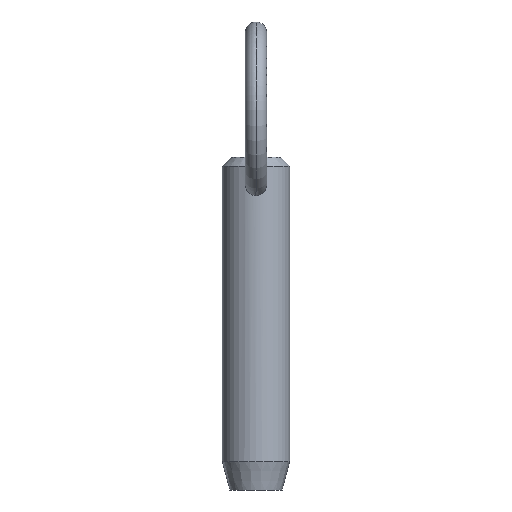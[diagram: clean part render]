
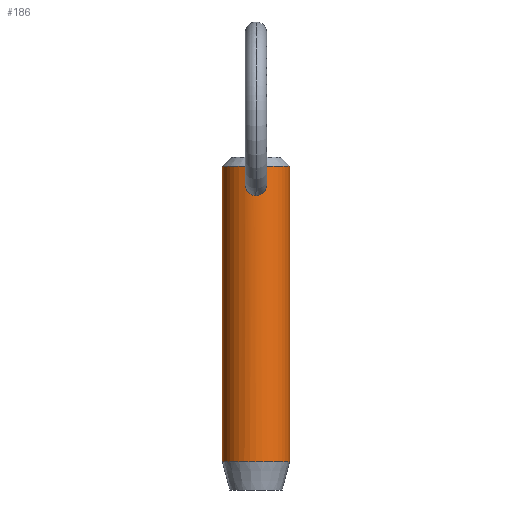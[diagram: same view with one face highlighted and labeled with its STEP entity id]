
A CAD part, front view. The second image highlights one B-rep face of the part: STEP entity #186.
In plain terms, the highlighted cylindrical face has radius 4.76 mm (diameter 9.52 mm), a partial arc.
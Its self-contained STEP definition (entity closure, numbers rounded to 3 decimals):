
#1 = CARTESIAN_POINT ( 'NONE',  ( 0., 0., -8.7 ) ) ;
#4 = VERTEX_POINT ( 'NONE', #56 ) ;
#10 = VECTOR ( 'NONE', #310, 1000. ) ;
#21 = CARTESIAN_POINT ( 'NONE',  ( -1.292, -4.582, 31.245 ) ) ;
#23 = FACE_BOUND ( 'NONE', #213, .T. ) ;
#25 = CARTESIAN_POINT ( 'NONE',  ( 0.209, -4.756, 32.134 ) ) ;
#26 = CARTESIAN_POINT ( 'NONE',  ( 0., -4.76, 32.148 ) ) ;
#30 = ORIENTED_EDGE ( 'NONE', *, *, #167, .T. ) ;
#33 = EDGE_CURVE ( 'NONE', #352, #4, #408, .T. ) ;
#34 = DIRECTION ( 'NONE',  ( 0., 0., 1. ) ) ;
#38 = CARTESIAN_POINT ( 'NONE',  ( 1.178, -4.613, 29.376 ) ) ;
#49 = ORIENTED_EDGE ( 'NONE', *, *, #316, .T. ) ;
#56 = CARTESIAN_POINT ( 'NONE',  ( 4.76, 0., -8.7 ) ) ;
#57 = CARTESIAN_POINT ( 'NONE',  ( -1.441, -4.537, 30.857 ) ) ;
#60 = CARTESIAN_POINT ( 'NONE',  ( -0.409, -4.743, 32.078 ) ) ;
#64 = CARTESIAN_POINT ( 'NONE',  ( -1.247, -4.596, 29.452 ) ) ;
#68 = EDGE_CURVE ( 'NONE', #299, #71, #240, .T. ) ;
#71 = VERTEX_POINT ( 'NONE', #241 ) ;
#72 = CARTESIAN_POINT ( 'NONE',  ( 0.105, -4.76, 28.826 ) ) ;
#74 = DIRECTION ( 'NONE',  ( -1., 0., 0. ) ) ;
#78 = FACE_OUTER_BOUND ( 'NONE', #506, .T. ) ;
#81 = DIRECTION ( 'NONE',  ( 0., 0., -1. ) ) ;
#84 = VERTEX_POINT ( 'NONE', #478 ) ;
#102 = CARTESIAN_POINT ( 'NONE',  ( 0.77, -4.698, 31.875 ) ) ;
#105 = CARTESIAN_POINT ( 'NONE',  ( 1.293, -4.582, 31.242 ) ) ;
#107 = CARTESIAN_POINT ( 'NONE',  ( 0.104, -4.76, 32.148 ) ) ;
#112 = AXIS2_PLACEMENT_3D ( 'NONE', #523, #275, #442 ) ;
#116 = CARTESIAN_POINT ( 'NONE',  ( 0., -4.76, 28.826 ) ) ;
#125 = EDGE_CURVE ( 'NONE', #352, #252, #291, .T. ) ;
#127 = LINE ( 'NONE', #365, #472 ) ;
#143 = CARTESIAN_POINT ( 'NONE',  ( 0.925, -4.67, 31.739 ) ) ;
#145 = CARTESIAN_POINT ( 'NONE',  ( 0., -4.76, 32.148 ) ) ;
#147 = CARTESIAN_POINT ( 'NONE',  ( 1.473, -4.526, 30.031 ) ) ;
#154 = ORIENTED_EDGE ( 'NONE', *, *, #469, .T. ) ;
#155 = CARTESIAN_POINT ( 'NONE',  ( 0.97, -4.662, 29.15 ) ) ;
#166 = CARTESIAN_POINT ( 'NONE',  ( 0., -4.76, 32.148 ) ) ;
#167 = EDGE_CURVE ( 'NONE', #84, #4, #171, .T. ) ;
#171 = CIRCLE ( 'NONE', #260, 4.76 ) ;
#179 = CARTESIAN_POINT ( 'NONE',  ( -0.703, -4.709, 28.989 ) ) ;
#182 = CARTESIAN_POINT ( 'NONE',  ( 1.434, -4.539, 30.854 ) ) ;
#186 = ADVANCED_FACE ( 'NONE', ( #78, #23 ), #395, .T. ) ;
#188 = CARTESIAN_POINT ( 'NONE',  ( 1.385, -4.554, 29.732 ) ) ;
#190 = ORIENTED_EDGE ( 'NONE', *, *, #125, .T. ) ;
#195 = CARTESIAN_POINT ( 'NONE',  ( 0.512, -4.733, 28.908 ) ) ;
#200 = CARTESIAN_POINT ( 'NONE',  ( 0., 0., 32.95 ) ) ;
#213 = EDGE_LOOP ( 'NONE', ( #256, #154 ) ) ;
#219 = CARTESIAN_POINT ( 'NONE',  ( 4.76, 0., 27.9 ) ) ;
#221 = CARTESIAN_POINT ( 'NONE',  ( -1.039, -4.646, 29.226 ) ) ;
#223 = CARTESIAN_POINT ( 'NONE',  ( 1.404, -4.548, 30.953 ) ) ;
#224 = CARTESIAN_POINT ( 'NONE',  ( 0., -4.76, 28.826 ) ) ;
#240 = B_SPLINE_CURVE_WITH_KNOTS ( 'NONE', 3,
 ( #145, #107, #25, #389, #258, #467, #102, #143, #347, #427, #105, #223, #182, #512, #392, #429, #397, #147, #431, #188, #474, #267, #38, #155, #482, #195, #519, #526, #72, #116 ),
 .UNSPECIFIED., .F., .F.,
 ( 4, 2, 2, 2, 2, 2, 2, 2, 2, 2, 2, 2, 2, 2, 4 ),
 ( 0.004, 0.005, 0.005, 0.005, 0.006, 0.006, 0.007, 0.007, 0.007, 0.007, 0.008, 0.008, 0.009, 0.009, 0.009 ),
 .UNSPECIFIED. ) ;
#241 = CARTESIAN_POINT ( 'NONE',  ( 0., -4.76, 28.826 ) ) ;
#242 = DIRECTION ( 'NONE',  ( 0., 0., -1. ) ) ;
#243 = CARTESIAN_POINT ( 'NONE',  ( -4.76, 0., 32.95 ) ) ;
#246 = B_SPLINE_CURVE_WITH_KNOTS ( 'NONE', 3,
 ( #224, #346, #514, #179, #257, #262, #221, #64, #268, #511, #311, #339, #57, #21, #301, #300, #304, #309, #60, #259, #343, #26 ),
 .UNSPECIFIED., .F., .F.,
 ( 4, 2, 2, 2, 2, 2, 2, 2, 2, 2, 4 ),
 ( 0.009, 0.01, 0.01, 0.011, 0.011, 0.012, 0.012, 0.013, 0.014, 0.014, 0.014 ),
 .UNSPECIFIED. ) ;
#252 = VERTEX_POINT ( 'NONE', #243 ) ;
#256 = ORIENTED_EDGE ( 'NONE', *, *, #68, .T. ) ;
#257 = CARTESIAN_POINT ( 'NONE',  ( -0.793, -4.694, 29.039 ) ) ;
#258 = CARTESIAN_POINT ( 'NONE',  ( 0.506, -4.734, 32.037 ) ) ;
#259 = CARTESIAN_POINT ( 'NONE',  ( -0.208, -4.757, 32.134 ) ) ;
#260 = AXIS2_PLACEMENT_3D ( 'NONE', #1, #34, #74 ) ;
#262 = CARTESIAN_POINT ( 'NONE',  ( -0.961, -4.663, 29.157 ) ) ;
#267 = CARTESIAN_POINT ( 'NONE',  ( 1.24, -4.596, 29.46 ) ) ;
#268 = CARTESIAN_POINT ( 'NONE',  ( -1.353, -4.564, 29.635 ) ) ;
#275 = DIRECTION ( 'NONE',  ( 0., 0., -1. ) ) ;
#291 = CIRCLE ( 'NONE', #441, 4.76 ) ;
#299 = VERTEX_POINT ( 'NONE', #166 ) ;
#300 = CARTESIAN_POINT ( 'NONE',  ( -0.932, -4.67, 31.745 ) ) ;
#301 = CARTESIAN_POINT ( 'NONE',  ( -1.19, -4.611, 31.424 ) ) ;
#304 = CARTESIAN_POINT ( 'NONE',  ( -0.777, -4.7, 31.885 ) ) ;
#309 = CARTESIAN_POINT ( 'NONE',  ( -0.504, -4.734, 32.038 ) ) ;
#310 = DIRECTION ( 'NONE',  ( 0., 0., -1. ) ) ;
#311 = CARTESIAN_POINT ( 'NONE',  ( -1.508, -4.515, 30.237 ) ) ;
#316 = EDGE_CURVE ( 'NONE', #252, #84, #127, .T. ) ;
#327 = CARTESIAN_POINT ( 'NONE',  ( 4.76, 0., 32.95 ) ) ;
#339 = CARTESIAN_POINT ( 'NONE',  ( -1.487, -4.522, 30.653 ) ) ;
#343 = CARTESIAN_POINT ( 'NONE',  ( -0.103, -4.76, 32.148 ) ) ;
#346 = CARTESIAN_POINT ( 'NONE',  ( -0.21, -4.76, 28.826 ) ) ;
#347 = CARTESIAN_POINT ( 'NONE',  ( 0.997, -4.655, 31.664 ) ) ;
#352 = VERTEX_POINT ( 'NONE', #327 ) ;
#365 = CARTESIAN_POINT ( 'NONE',  ( -4.76, 0., 27.9 ) ) ;
#389 = CARTESIAN_POINT ( 'NONE',  ( 0.409, -4.743, 32.078 ) ) ;
#392 = CARTESIAN_POINT ( 'NONE',  ( 1.492, -4.52, 30.548 ) ) ;
#395 = CYLINDRICAL_SURFACE ( 'NONE', #112, 4.76 ) ;
#397 = CARTESIAN_POINT ( 'NONE',  ( 1.499, -4.518, 30.237 ) ) ;
#408 = LINE ( 'NONE', #219, #10 ) ;
#427 = CARTESIAN_POINT ( 'NONE',  ( 1.19, -4.611, 31.424 ) ) ;
#429 = CARTESIAN_POINT ( 'NONE',  ( 1.503, -4.517, 30.34 ) ) ;
#431 = CARTESIAN_POINT ( 'NONE',  ( 1.45, -4.534, 29.928 ) ) ;
#435 = ORIENTED_EDGE ( 'NONE', *, *, #33, .F. ) ;
#441 = AXIS2_PLACEMENT_3D ( 'NONE', #200, #81, #487 ) ;
#442 = DIRECTION ( 'NONE',  ( -1., 0., 0. ) ) ;
#467 = CARTESIAN_POINT ( 'NONE',  ( 0.687, -4.711, 31.935 ) ) ;
#469 = EDGE_CURVE ( 'NONE', #71, #299, #246, .T. ) ;
#472 = VECTOR ( 'NONE', #242, 1000. ) ;
#474 = CARTESIAN_POINT ( 'NONE',  ( 1.344, -4.567, 29.639 ) ) ;
#478 = CARTESIAN_POINT ( 'NONE',  ( -4.76, 0., -8.7 ) ) ;
#482 = CARTESIAN_POINT ( 'NONE',  ( 0.797, -4.697, 29.029 ) ) ;
#487 = DIRECTION ( 'NONE',  ( 1., 0., 0. ) ) ;
#506 = EDGE_LOOP ( 'NONE', ( #435, #190, #49, #30 ) ) ;
#511 = CARTESIAN_POINT ( 'NONE',  ( -1.483, -4.524, 30.026 ) ) ;
#512 = CARTESIAN_POINT ( 'NONE',  ( 1.478, -4.525, 30.652 ) ) ;
#514 = CARTESIAN_POINT ( 'NONE',  ( -0.416, -4.746, 28.867 ) ) ;
#519 = CARTESIAN_POINT ( 'NONE',  ( 0.411, -4.743, 28.877 ) ) ;
#523 = CARTESIAN_POINT ( 'NONE',  ( 0., 0., 27.9 ) ) ;
#526 = CARTESIAN_POINT ( 'NONE',  ( 0.208, -4.757, 28.836 ) ) ;
